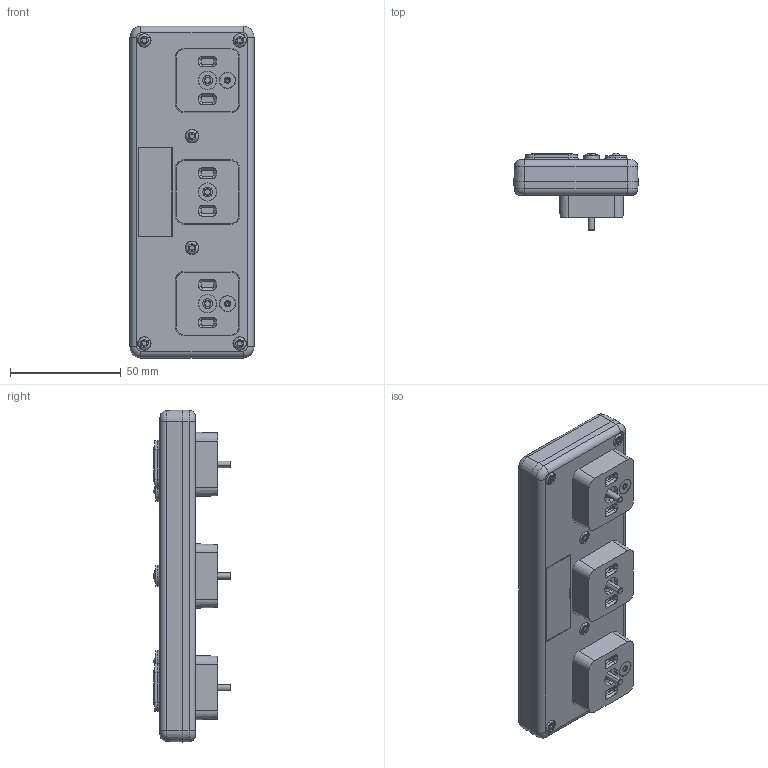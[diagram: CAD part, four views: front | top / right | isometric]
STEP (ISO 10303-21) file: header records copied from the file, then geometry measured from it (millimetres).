
FILE_DESCRIPTION (( 'STEP AP203' ), '1' );
FILE_NAME ('S-1302.STEP', '2018-05-28T09:38:35', ( '' ), ( '' ), 'SwSTEP 2.0', 'SolidWorks 2018', '' );
FILE_SCHEMA (( 'CONFIG_CONTROL_DESIGN' ));
Length unit declared in the file: millimetre
Products named in the file (1): S-1302
Bounding box: 56 x 34.9 x 149.6 mm (x, y, z)
Volume: 149664.7 mm3; surface area: 36392.1 mm2
Topology: 1 solids, 11 shells, 1478 faces, 3855 edges, 2483 vertices
Faces by surface type: plane 572, cone 330, cylinder 250, bspline 216, torus 90, sphere 20
Entity records: 57277 total; most frequent: CARTESIAN_POINT 22148, ORIENTED_EDGE 7682, DIRECTION 6737, EDGE_CURVE 3841, VERTEX_POINT 2483, AXIS2_PLACEMENT_3D 2463, VECTOR 1811, LINE 1811
